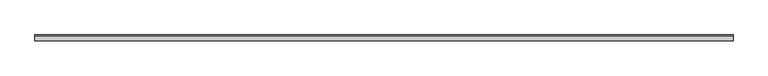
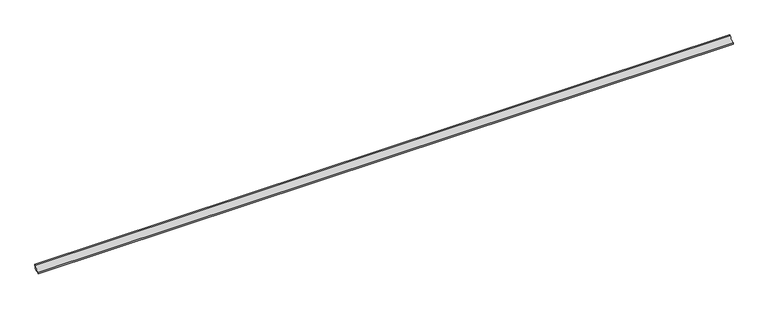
"""IFC4 building model written with IfcOpenShell, lengths in millimetres: proxy geometry, EXAGRES - Piscina Mediacaña1 : Publica_Azul_24.5x4cm."""

from ifc_helpers import new_model, si_unit, point, frame, frame_2d, origin, place, context, project, spatial, polyline, circle_curve, trimmed, segment, composite_curve, outline, extrude, source, transform, mapped, element, save


def generic_models_c2bf57ab(model_context):
    return source(origin(), model_context, "Body", "SweptSolid", [
        extrude(outline(composite_curve([segment(trimmed(circle_curve(frame_2d((-26.0, 26.0)), 26.0), [point((-26.0, 0.0))], [point((0.0, 26.0))], True, "CARTESIAN"), True, "CONTINUOUS"), segment(polyline([(0.0, 26.0), (8.5, 26.0)]), True, "CONTINUOUS"), segment(trimmed(circle_curve(frame_2d((-26.0, 26.0)), 34.5), [point((8.5, 26.0))], [point((-26.0, -8.5))], False, "CARTESIAN"), True, "CONTINUOUS"), segment(polyline([(-26.0, -8.5), (-26.0, 0.0)]), True, "CONTINUOUS")], self_intersect=False)), frame((0.0, 0.0, 0.0), z_axis=(1.0, 0.0, 0.0), x_axis=(0.0, 1.0, 0.0)), (0.0, 0.0, 1.0), 3974.0),
    ])


if __name__ == "__main__":
    model = new_model("IFC4")
    model_context = context("Model", 3, world=origin())
    ifc_project = project(units=[si_unit("LENGTHUNIT", "METRE", prefix="MILLI")], contexts=[model_context])
    site = spatial("IfcSite", under=ifc_project)
    building = spatial("IfcBuilding", under=site)
    placement = place(None, origin())
    generic_models_shape = generic_models_c2bf57ab(model_context)
    element("IfcBuildingElementProxy", 1, Name="EXAGRES - Piscina Mediacaña1 : Publica_Azul_24.5x4cm", ObjectType="EXAGRES - Piscina Mediacaña1 : Publica_Azul_24.5x4cm", at=placement, inside=building, context=model_context, shape_type="MappedRepresentation", body=[
        mapped(generic_models_shape, transform((0.0, 0.0, 0.0), x_axis=(1.0, 0.0, 0.0), y_axis=(0.0, 1.0, 0.0), z_axis=(0.0, 0.0, 1.0))),
    ])
    save(model, "model.ifc")
